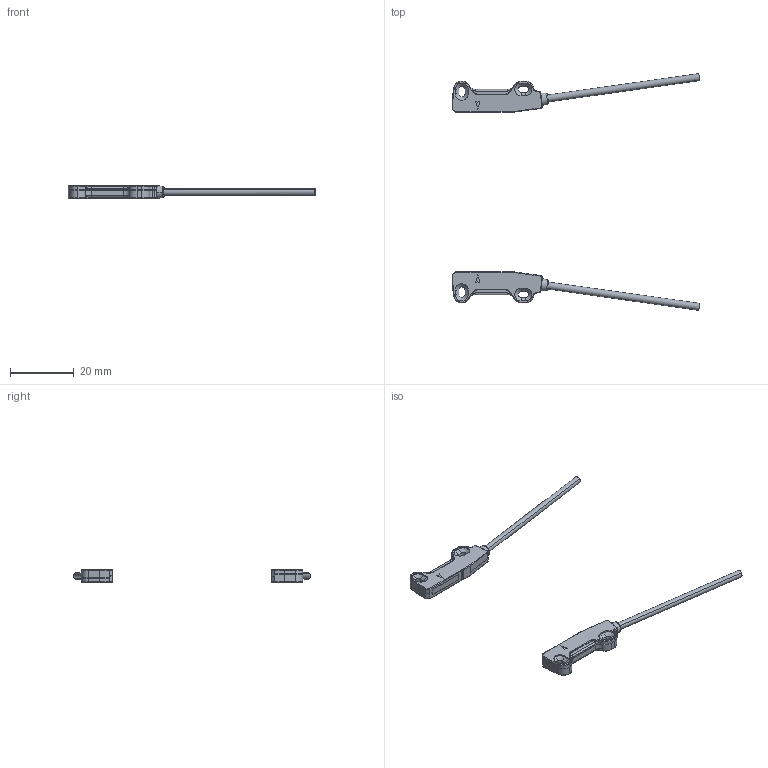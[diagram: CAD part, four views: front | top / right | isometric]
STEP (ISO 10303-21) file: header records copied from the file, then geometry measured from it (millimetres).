
FILE_DESCRIPTION (( 'STEP AP214' ), '1' );
FILE_NAME ('FTW11-210-10R.STEP', '2019-06-18T02:42:34', ( '' ), ( '' ), 'SwSTEP 2.0', 'SolidWorks 2018', '' );
FILE_SCHEMA (( 'AUTOMOTIVE_DESIGN' ));
Length unit declared in the file: millimetre
Products named in the file (1): FTW11-210-10R
Bounding box: 77.69 x 74.3 x 4 mm (x, y, z)
Volume: 1944.3 mm3; surface area: 2446.1 mm2
Topology: 2 solids, 2 shells, 466 faces, 1170 edges, 702 vertices
Faces by surface type: plane 220, cylinder 162, torus 52, cone 24, bspline 8
Entity records: 14213 total; most frequent: CARTESIAN_POINT 2699, DIRECTION 2430, ORIENTED_EDGE 2324, EDGE_CURVE 1162, AXIS2_PLACEMENT_3D 853, VECTOR 724, LINE 724, VERTEX_POINT 702
